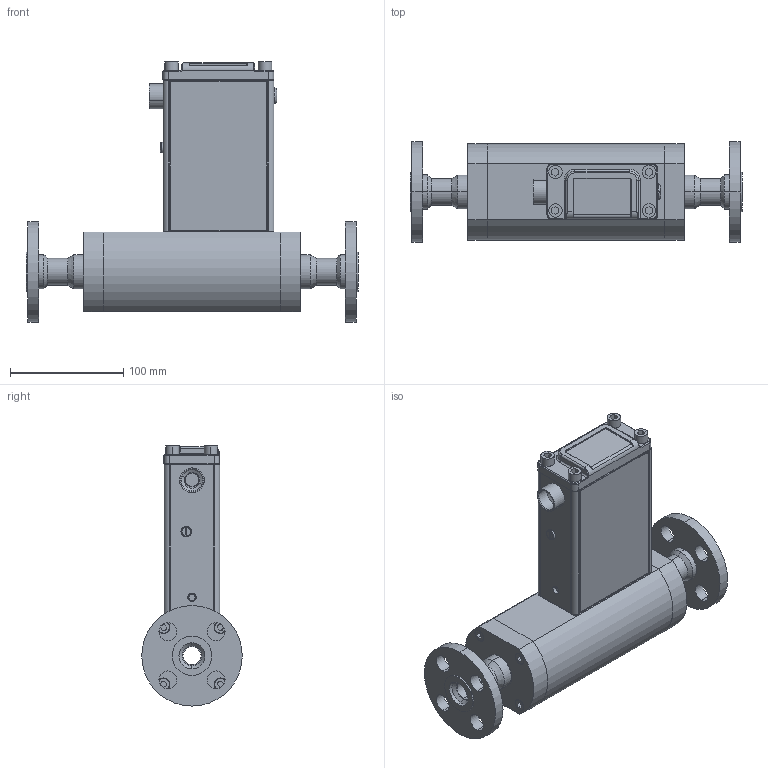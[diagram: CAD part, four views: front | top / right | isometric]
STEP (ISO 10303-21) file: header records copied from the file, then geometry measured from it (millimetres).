
FILE_DESCRIPTION (( 'STEP AP214' ), '1' );
FILE_NAME ('SLAMF63-S-3G-0-Y-REVB.STEP', '2025-02-05T21:01:50', ( '' ), ( '' ), 'SwSTEP 2.0', 'SolidWorks 2023', '' );
FILE_SCHEMA (( 'AUTOMOTIVE_DESIGN' ));
Length unit declared in the file: inch
Products named in the file (1): SLAMF63-S-3G-0-Y-REVB
Bounding box: 293.6 x 88.91 x 230.08 mm (x, y, z)
Volume: 508836.7 mm3; surface area: 307275.5 mm2
Topology: 58 solids, 58 shells, 874 faces, 2064 edges, 1326 vertices
Faces by surface type: plane 352, cylinder 336, cone 124, bspline 62
Entity records: 27681 total; most frequent: CARTESIAN_POINT 6537, DIRECTION 4356, ORIENTED_EDGE 4108, EDGE_CURVE 2054, AXIS2_PLACEMENT_3D 1683, VERTEX_POINT 1326, EDGE_LOOP 1014, LINE 990
